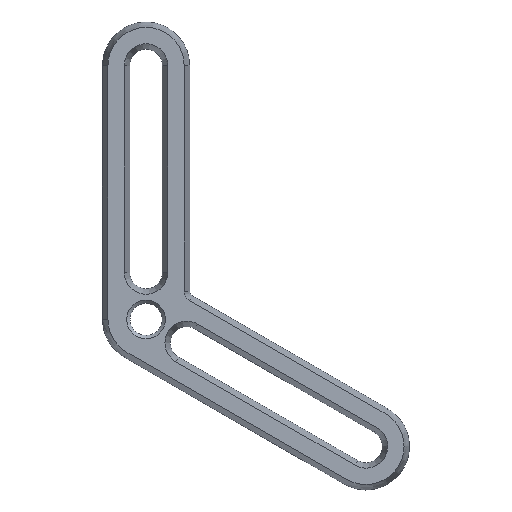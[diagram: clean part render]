
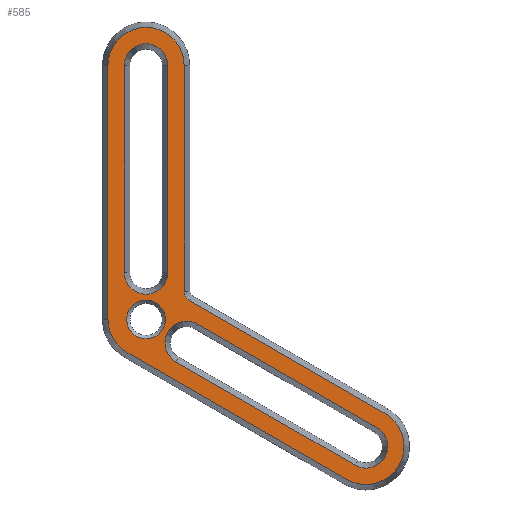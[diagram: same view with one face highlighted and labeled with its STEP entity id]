
A CAD part, top view. The second image highlights one B-rep face of the part: STEP entity #585.
In plain terms, the highlighted planar face has unit normal (0, 0, 1).
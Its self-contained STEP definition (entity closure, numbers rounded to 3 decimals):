
#24=FACE_BOUND('',#86,.T.);
#25=FACE_BOUND('',#87,.T.);
#26=FACE_BOUND('',#88,.T.);
#30=PLANE('',#637);
#49=FACE_OUTER_BOUND('',#85,.T.);
#85=EDGE_LOOP('',(#409,#410,#411,#412,#413,#414,#415,#416));
#86=EDGE_LOOP('',(#417,#418,#419,#420));
#87=EDGE_LOOP('',(#421,#422,#423,#424));
#88=EDGE_LOOP('',(#425));
#127=LINE('',#893,#185);
#128=LINE('',#897,#186);
#129=LINE('',#901,#187);
#130=LINE('',#905,#188);
#131=LINE('',#909,#189);
#132=LINE('',#913,#190);
#133=LINE('',#917,#191);
#134=LINE('',#921,#192);
#185=VECTOR('',#708,10.);
#186=VECTOR('',#711,10.);
#187=VECTOR('',#714,10.);
#188=VECTOR('',#717,10.);
#189=VECTOR('',#720,10.);
#190=VECTOR('',#723,10.);
#191=VECTOR('',#726,10.);
#192=VECTOR('',#729,10.);
#242=CIRCLE('',#635,3.55);
#244=CIRCLE('',#638,2.);
#245=CIRCLE('',#639,7.);
#246=CIRCLE('',#640,7.);
#247=CIRCLE('',#641,7.);
#248=CIRCLE('',#642,4.);
#249=CIRCLE('',#643,4.);
#250=CIRCLE('',#644,4.);
#251=CIRCLE('',#645,4.);
#269=VERTEX_POINT('',#885);
#271=VERTEX_POINT('',#891);
#272=VERTEX_POINT('',#892);
#273=VERTEX_POINT('',#894);
#274=VERTEX_POINT('',#896);
#275=VERTEX_POINT('',#898);
#276=VERTEX_POINT('',#900);
#277=VERTEX_POINT('',#902);
#278=VERTEX_POINT('',#904);
#279=VERTEX_POINT('',#907);
#280=VERTEX_POINT('',#908);
#281=VERTEX_POINT('',#910);
#282=VERTEX_POINT('',#912);
#283=VERTEX_POINT('',#915);
#284=VERTEX_POINT('',#916);
#285=VERTEX_POINT('',#918);
#286=VERTEX_POINT('',#920);
#320=EDGE_CURVE('',#269,#269,#242,.T.);
#323=EDGE_CURVE('',#271,#272,#127,.T.);
#324=EDGE_CURVE('',#273,#271,#244,.T.);
#325=EDGE_CURVE('',#274,#273,#128,.T.);
#326=EDGE_CURVE('',#275,#274,#245,.T.);
#327=EDGE_CURVE('',#276,#275,#129,.T.);
#328=EDGE_CURVE('',#277,#276,#246,.T.);
#329=EDGE_CURVE('',#278,#277,#130,.T.);
#330=EDGE_CURVE('',#272,#278,#247,.T.);
#331=EDGE_CURVE('',#279,#280,#131,.T.);
#332=EDGE_CURVE('',#281,#279,#248,.T.);
#333=EDGE_CURVE('',#282,#281,#132,.T.);
#334=EDGE_CURVE('',#280,#282,#249,.T.);
#335=EDGE_CURVE('',#283,#284,#133,.T.);
#336=EDGE_CURVE('',#285,#283,#250,.T.);
#337=EDGE_CURVE('',#286,#285,#134,.T.);
#338=EDGE_CURVE('',#284,#286,#251,.T.);
#409=ORIENTED_EDGE('',*,*,#323,.F.);
#410=ORIENTED_EDGE('',*,*,#324,.F.);
#411=ORIENTED_EDGE('',*,*,#325,.F.);
#412=ORIENTED_EDGE('',*,*,#326,.F.);
#413=ORIENTED_EDGE('',*,*,#327,.F.);
#414=ORIENTED_EDGE('',*,*,#328,.F.);
#415=ORIENTED_EDGE('',*,*,#329,.F.);
#416=ORIENTED_EDGE('',*,*,#330,.F.);
#417=ORIENTED_EDGE('',*,*,#331,.F.);
#418=ORIENTED_EDGE('',*,*,#332,.F.);
#419=ORIENTED_EDGE('',*,*,#333,.F.);
#420=ORIENTED_EDGE('',*,*,#334,.F.);
#421=ORIENTED_EDGE('',*,*,#335,.F.);
#422=ORIENTED_EDGE('',*,*,#336,.F.);
#423=ORIENTED_EDGE('',*,*,#337,.F.);
#424=ORIENTED_EDGE('',*,*,#338,.F.);
#425=ORIENTED_EDGE('',*,*,#320,.F.);
#585=ADVANCED_FACE('',(#49,#24,#25,#26),#30,.T.);
#635=AXIS2_PLACEMENT_3D('',#886,#701,#702);
#637=AXIS2_PLACEMENT_3D('',#890,#706,#707);
#638=AXIS2_PLACEMENT_3D('',#895,#709,#710);
#639=AXIS2_PLACEMENT_3D('',#899,#712,#713);
#640=AXIS2_PLACEMENT_3D('',#903,#715,#716);
#641=AXIS2_PLACEMENT_3D('',#906,#718,#719);
#642=AXIS2_PLACEMENT_3D('',#911,#721,#722);
#643=AXIS2_PLACEMENT_3D('',#914,#724,#725);
#644=AXIS2_PLACEMENT_3D('',#919,#727,#728);
#645=AXIS2_PLACEMENT_3D('',#922,#730,#731);
#701=DIRECTION('center_axis',(0.,0.,1.));
#702=DIRECTION('ref_axis',(1.,0.,0.));
#706=DIRECTION('center_axis',(0.,0.,1.));
#707=DIRECTION('ref_axis',(1.,0.,0.));
#708=DIRECTION('',(0.866,-0.5,0.));
#709=DIRECTION('center_axis',(0.,0.,1.));
#710=DIRECTION('ref_axis',(-1.,0.,0.));
#711=DIRECTION('',(0.,-1.,0.));
#712=DIRECTION('center_axis',(0.,0.,-1.));
#713=DIRECTION('ref_axis',(1.,0.,0.));
#714=DIRECTION('',(0.,1.,0.));
#715=DIRECTION('center_axis',(0.,0.,-1.));
#716=DIRECTION('ref_axis',(-1.,0.,0.));
#717=DIRECTION('',(-0.866,0.5,0.));
#718=DIRECTION('center_axis',(0.,0.,-1.));
#719=DIRECTION('ref_axis',(-0.5,-0.866,0.));
#720=DIRECTION('',(0.,1.,0.));
#721=DIRECTION('center_axis',(0.,0.,1.));
#722=DIRECTION('ref_axis',(-1.,0.,0.));
#723=DIRECTION('',(0.,-1.,0.));
#724=DIRECTION('center_axis',(0.,0.,1.));
#725=DIRECTION('ref_axis',(1.,0.,0.));
#726=DIRECTION('',(0.866,-0.5,0.));
#727=DIRECTION('center_axis',(0.,0.,1.));
#728=DIRECTION('ref_axis',(-0.866,0.5,0.));
#729=DIRECTION('',(-0.866,0.5,0.));
#730=DIRECTION('center_axis',(0.,0.,1.));
#731=DIRECTION('ref_axis',(-0.5,-0.866,0.));
#885=CARTESIAN_POINT('',(-833.55,554.256,15.));
#886=CARTESIAN_POINT('Origin',(-830.,554.256,15.));
#890=CARTESIAN_POINT('Origin',(-809.813,565.911,15.));
#891=CARTESIAN_POINT('',(-822.,557.72,15.));
#892=CARTESIAN_POINT('',(-786.127,537.009,15.));
#893=CARTESIAN_POINT('',(-801.267,545.75,15.));
#894=CARTESIAN_POINT('',(-823.,559.452,15.));
#895=CARTESIAN_POINT('Origin',(-821.,559.452,15.));
#896=CARTESIAN_POINT('',(-823.,600.875,15.));
#897=CARTESIAN_POINT('',(-823.,562.681,15.));
#898=CARTESIAN_POINT('',(-837.,600.875,15.));
#899=CARTESIAN_POINT('Origin',(-830.,600.875,15.));
#900=CARTESIAN_POINT('',(-837.,554.256,15.));
#901=CARTESIAN_POINT('',(-837.,583.393,15.));
#902=CARTESIAN_POINT('',(-833.5,548.194,15.));
#903=CARTESIAN_POINT('Origin',(-830.,554.256,15.));
#904=CARTESIAN_POINT('',(-793.127,524.884,15.));
#905=CARTESIAN_POINT('',(-828.453,545.28,15.));
#906=CARTESIAN_POINT('Origin',(-789.627,530.947,15.));
#907=CARTESIAN_POINT('',(-826.,562.875,15.));
#908=CARTESIAN_POINT('',(-826.,600.875,15.));
#909=CARTESIAN_POINT('',(-826.,583.393,15.));
#910=CARTESIAN_POINT('',(-834.,562.875,15.));
#911=CARTESIAN_POINT('Origin',(-830.,562.875,15.));
#912=CARTESIAN_POINT('',(-834.,600.875,15.));
#913=CARTESIAN_POINT('',(-834.,564.393,15.));
#914=CARTESIAN_POINT('Origin',(-830.,600.875,15.));
#915=CARTESIAN_POINT('',(-824.536,546.483,15.));
#916=CARTESIAN_POINT('',(-791.627,527.483,15.));
#917=CARTESIAN_POINT('',(-806.767,536.224,15.));
#918=CARTESIAN_POINT('',(-820.536,553.411,15.));
#919=CARTESIAN_POINT('Origin',(-822.536,549.947,15.));
#920=CARTESIAN_POINT('',(-787.627,534.411,15.));
#921=CARTESIAN_POINT('',(-819.221,552.652,15.));
#922=CARTESIAN_POINT('Origin',(-789.627,530.947,15.));
